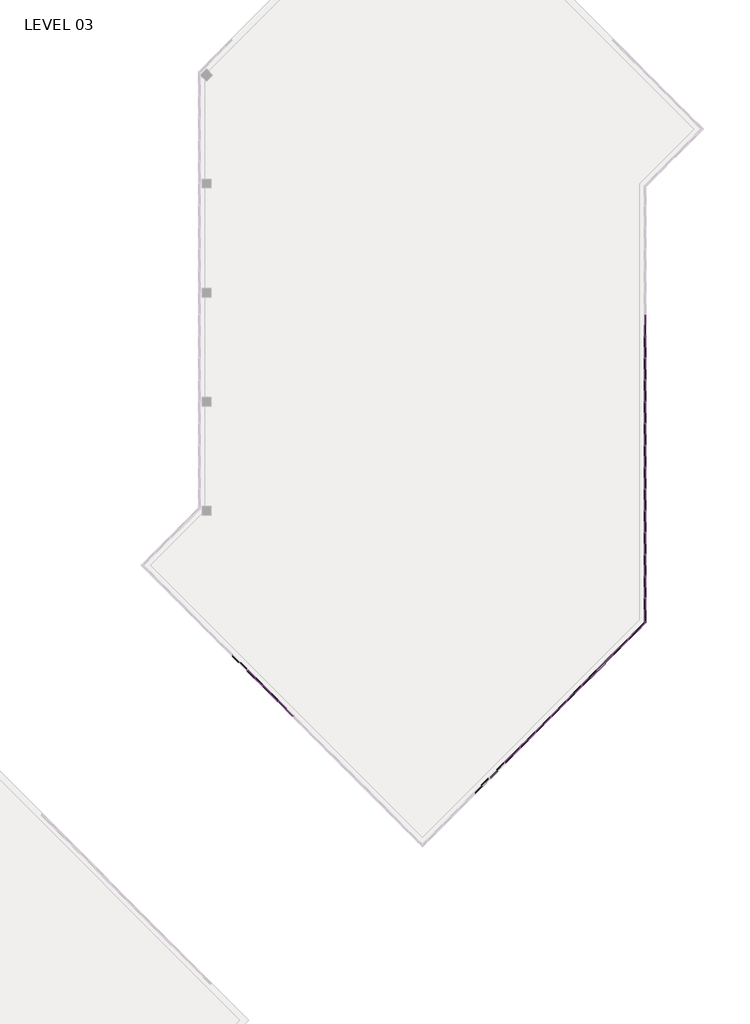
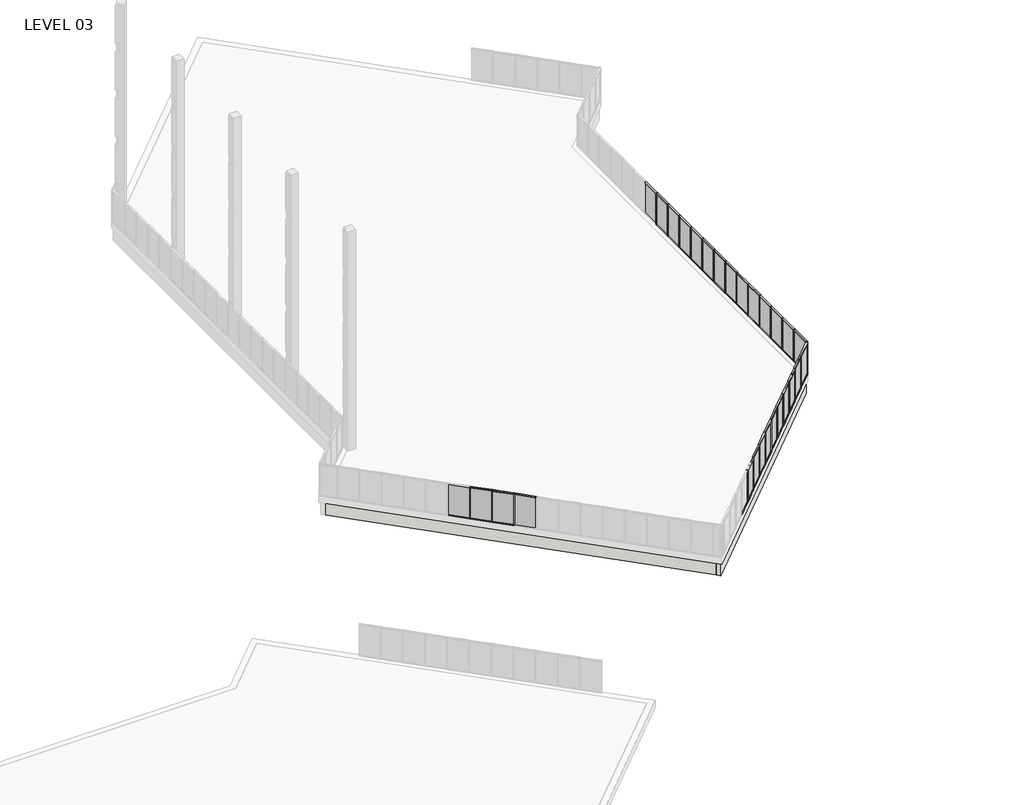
# One storey, part 11 of 18: 81 members, 28 plates, 3 walls.
"""IFC4 building model written with IfcOpenShell, lengths in millimetres."""

from ifc_helpers import new_model, si_unit, origin, place, context, project, spatial, faceted_brep, transform, mapped, element, save
from components import member_5247f267, member_e44af9ab, member_800970d4, member_1bd862b2, member_c975838b, member_910c08c9, plate_67294edd, plate_bbcbcabf, plate_3fb62afd, plate_88df3e37

model = new_model("IFC4")

# Units and contexts
model_context = context("Model", 3, world=origin())
ifc_project = project(units=[si_unit("LENGTHUNIT", "METRE", prefix="MILLI")], contexts=[model_context])

# Site, building, storey
site = spatial("IfcSite", under=ifc_project)
building = spatial("IfcBuilding", under=site)
storey = spatial("IfcBuildingStorey", under=building, Name="LEVEL 03", Elevation=8280.4)

# Members
placement = place(None, origin())
member_shape = member_5247f267(model_context)
element("IfcMember", 1, ObjectType="Rectangular Mullion : 2\" x 4.5\" rectangular", at=placement, inside=storey, context=model_context, shape_type="MappedRepresentation", body=[
    mapped(member_shape, transform((92435.9347164, 58305.3675885, 10871.2), x_axis=(0.0, 0.0, 1.0), y_axis=(-1.0, 0.0, 0.0), z_axis=(0.0, -1.0, 0.0))),
])
element("IfcMember", 2, ObjectType="Rectangular Mullion : 2\" x 4.5\" rectangular", at=placement, inside=storey, context=model_context, shape_type="MappedRepresentation", body=[
    mapped(member_shape, transform((92435.9347164, 56781.3675885, 10871.2), x_axis=(0.0, 0.0, 1.0), y_axis=(-1.0, 0.0, 0.0), z_axis=(0.0, -1.0, 0.0))),
])
element("IfcMember", 3, ObjectType="Rectangular Mullion : 2\" x 4.5\" rectangular", at=placement, inside=storey, context=model_context, shape_type="MappedRepresentation", body=[
    mapped(member_shape, transform((92435.9347164, 55257.3675885, 10871.2), x_axis=(0.0, 0.0, 1.0), y_axis=(-1.0, 0.0, 0.0), z_axis=(0.0, -1.0, 0.0))),
])
element("IfcMember", 4, ObjectType="Rectangular Mullion : 2\" x 4.5\" rectangular", at=placement, inside=storey, context=model_context, shape_type="MappedRepresentation", body=[
    mapped(member_shape, transform((92435.9347164, 52209.3675885, 10871.2), x_axis=(0.0, 0.0, 1.0), y_axis=(-1.0, 0.0, 0.0), z_axis=(0.0, -1.0, 0.0))),
])
element("IfcMember", 5, ObjectType="Rectangular Mullion : 2\" x 4.5\" rectangular", at=placement, inside=storey, context=model_context, shape_type="MappedRepresentation", body=[
    mapped(member_shape, transform((92435.9347164, 50685.3675885, 10871.2), x_axis=(0.0, 0.0, 1.0), y_axis=(-1.0, 0.0, 0.0), z_axis=(0.0, -1.0, 0.0))),
])
element("IfcMember", 6, ObjectType="Rectangular Mullion : 2\" x 4.5\" rectangular", at=placement, inside=storey, context=model_context, shape_type="MappedRepresentation", body=[
    mapped(member_shape, transform((92435.9347164, 47637.3675885, 10871.2), x_axis=(0.0, 0.0, 1.0), y_axis=(-1.0, 0.0, 0.0), z_axis=(0.0, -1.0, 0.0))),
])
element("IfcMember", 7, ObjectType="Rectangular Mullion : 2\" x 4.5\" rectangular", at=placement, inside=storey, context=model_context, shape_type="MappedRepresentation", body=[
    mapped(member_shape, transform((92435.9347164, 43065.3675885, 10871.2), x_axis=(0.0, 0.0, 1.0), y_axis=(-1.0, 0.0, 0.0), z_axis=(0.0, -1.0, 0.0))),
])
element("IfcMember", 8, ObjectType="Rectangular Mullion : 2\" x 4.5\" rectangular", at=placement, inside=storey, context=model_context, shape_type="MappedRepresentation", body=[
    mapped(member_shape, transform((92435.9347164, 41541.3675885, 10871.2), x_axis=(0.0, 0.0, 1.0), y_axis=(-1.0, 0.0, 0.0), z_axis=(0.0, -1.0, 0.0))),
])
element("IfcMember", 9, ObjectType="Rectangular Mullion : 2\" x 4.5\" rectangular", at=placement, inside=storey, context=model_context, shape_type="MappedRepresentation", body=[
    mapped(member_shape, transform((90181.6405, 36047.9672365, 10871.2), x_axis=(0.0, 0.0, 1.0), y_axis=(-0.7071067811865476, 0.7071067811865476, 0.0), z_axis=(-0.7071067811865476, -0.7071067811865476, 0.0))),
])
element("IfcMember", 10, ObjectType="Rectangular Mullion : 2\" x 4.5\" rectangular", at=placement, inside=storey, context=model_context, shape_type="MappedRepresentation", body=[
    mapped(member_shape, transform((89104.0097655, 34970.336502, 10871.2), x_axis=(0.0, 0.0, 1.0), y_axis=(-0.7071067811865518, 0.7071067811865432, 0.0), z_axis=(-0.7071067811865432, -0.7071067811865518, 0.0))),
])
element("IfcMember", 11, ObjectType="Rectangular Mullion : 2\" x 4.5\" rectangular", at=placement, inside=storey, context=model_context, shape_type="MappedRepresentation", body=[
    mapped(member_shape, transform((88026.379031, 33892.7057675, 10871.2), x_axis=(0.0, 0.0, 1.0), y_axis=(-0.707106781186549, 0.7071067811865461, 0.0), z_axis=(-0.7071067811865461, -0.707106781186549, 0.0))),
])
element("IfcMember", 12, ObjectType="Rectangular Mullion : 2\" x 4.5\" rectangular", at=placement, inside=storey, context=model_context, shape_type="MappedRepresentation", body=[
    mapped(member_shape, transform((85871.1175619, 31737.4442984, 10871.2), x_axis=(0.0, 0.0, 1.0), y_axis=(-0.7071067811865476, 0.7071067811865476, 0.0), z_axis=(-0.7071067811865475, -0.7071067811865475, 0.0))),
])
element("IfcMember", 13, ObjectType="Rectangular Mullion : 2\" x 4.5\" rectangular", at=placement, inside=storey, context=model_context, shape_type="MappedRepresentation", body=[
    mapped(member_shape, transform((84793.4868274, 30659.8135639, 10871.2), x_axis=(0.0, 0.0, 1.0), y_axis=(-0.7071067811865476, 0.7071067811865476, 0.0), z_axis=(-0.7071067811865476, -0.7071067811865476, 0.0))),
])
element("IfcMember", 14, ObjectType="Rectangular Mullion : 2\" x 4.5\" rectangular", at=placement, inside=storey, context=model_context, shape_type="MappedRepresentation", body=[
    mapped(member_shape, transform((83715.8560929, 29582.1828294, 10871.2), x_axis=(0.0, 0.0, 1.0), y_axis=(-0.7071067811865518, 0.7071067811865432, 0.0), z_axis=(-0.7071067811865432, -0.7071067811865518, 0.0))),
])
element("IfcMember", 15, ObjectType="Rectangular Mullion : 2\" x 4.5\" rectangular", at=placement, inside=storey, context=model_context, shape_type="MappedRepresentation", body=[
    mapped(member_shape, transform((64631.8093644, 34934.2368049, 10871.2), x_axis=(0.0, 0.0, 1.0), y_axis=(0.7071067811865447, 0.7071067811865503, 0.0), z_axis=(-0.7071067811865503, 0.7071067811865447, 0.0))),
])
element("IfcMember", 16, ObjectType="Rectangular Mullion : 2\" x 4.5\" rectangular", at=placement, inside=storey, context=model_context, shape_type="MappedRepresentation", body=[
    mapped(member_shape, transform((92435.9347164, 49161.3675885, 10871.2), x_axis=(0.0, 0.0, 1.0), y_axis=(-1.0, 0.0, 0.0), z_axis=(0.0, -1.0, 0.0))),
])
element("IfcMember", 17, ObjectType="Rectangular Mullion : 2\" x 4.5\" rectangular", at=placement, inside=storey, context=model_context, shape_type="MappedRepresentation", body=[
    mapped(member_shape, transform((92435.9347164, 53733.3675885, 10871.2), x_axis=(0.0, 0.0, 1.0), y_axis=(-1.0, 0.0, 0.0), z_axis=(0.0, -1.0, 0.0))),
])
element("IfcMember", 18, ObjectType="Rectangular Mullion : 2\" x 4.5\" rectangular", at=placement, inside=storey, context=model_context, shape_type="MappedRepresentation", body=[
    mapped(member_shape, transform((92435.9347164, 46113.3675885, 10871.2), x_axis=(0.0, 0.0, 1.0), y_axis=(-1.0, 0.0, 0.0), z_axis=(0.0, -1.0, 0.0))),
])
element("IfcMember", 19, ObjectType="Rectangular Mullion : 2\" x 4.5\" rectangular", at=placement, inside=storey, context=model_context, shape_type="MappedRepresentation", body=[
    mapped(member_shape, transform((92435.9347164, 44589.3675885, 10871.2), x_axis=(0.0, 0.0, 1.0), y_axis=(-1.0, 0.0, 0.0), z_axis=(0.0, -1.0, 0.0))),
])
element("IfcMember", 20, ObjectType="Rectangular Mullion : 2\" x 4.5\" rectangular", at=placement, inside=storey, context=model_context, shape_type="MappedRepresentation", body=[
    mapped(member_shape, transform((92435.9347164, 40017.3675885, 10871.2), x_axis=(0.0, 0.0, 1.0), y_axis=(-1.0, 0.0, 0.0), z_axis=(0.0, -1.0, 0.0))),
])
element("IfcMember", 21, ObjectType="Rectangular Mullion : 2\" x 4.5\" rectangular", at=placement, inside=storey, context=model_context, shape_type="MappedRepresentation", body=[
    mapped(member_shape, transform((86948.7482965, 32815.0750329, 10871.2), x_axis=(0.0, 0.0, 1.0), y_axis=(-0.7071067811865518, 0.7071067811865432, 0.0), z_axis=(-0.7071067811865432, -0.7071067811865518, 0.0))),
])
element("IfcMember", 22, ObjectType="Rectangular Mullion : 2\" x 4.5\" rectangular", at=placement, inside=storey, context=model_context, shape_type="MappedRepresentation", body=[
    mapped(member_shape, transform((82638.2253583, 28504.5520948, 10871.2), x_axis=(0.0, 0.0, 1.0), y_axis=(-0.7071067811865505, 0.7071067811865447, 0.0), z_axis=(-0.7071067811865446, -0.7071067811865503, 0.0))),
])
element("IfcMember", 23, ObjectType="Rectangular Mullion : 2\" x 4.5\" rectangular", at=placement, inside=storey, context=model_context, shape_type="MappedRepresentation", body=[
    mapped(member_shape, transform((92435.9347164, 58254.5675885, 8280.4), x_axis=(0.0, 0.0, -1.0), y_axis=(-1.0, 0.0, 0.0), z_axis=(0.0, 1.0, 0.0))),
])
element("IfcMember", 24, ObjectType="Rectangular Mullion : 2\" x 4.5\" rectangular", at=placement, inside=storey, context=model_context, shape_type="MappedRepresentation", body=[
    mapped(member_shape, transform((92435.9347164, 56730.5675885, 8280.4), x_axis=(0.0, 0.0, -1.0), y_axis=(-1.0, 0.0, 0.0), z_axis=(0.0, 1.0, 0.0))),
])
element("IfcMember", 25, ObjectType="Rectangular Mullion : 2\" x 4.5\" rectangular", at=placement, inside=storey, context=model_context, shape_type="MappedRepresentation", body=[
    mapped(member_shape, transform((92435.9347164, 55206.5675885, 8280.4), x_axis=(0.0, 0.0, -1.0), y_axis=(-1.0, 0.0, 0.0), z_axis=(0.0, 1.0, 0.0))),
])
element("IfcMember", 26, ObjectType="Rectangular Mullion : 2\" x 4.5\" rectangular", at=placement, inside=storey, context=model_context, shape_type="MappedRepresentation", body=[
    mapped(member_shape, transform((92435.9347164, 52158.5675885, 8280.4), x_axis=(0.0, 0.0, -1.0), y_axis=(-1.0, 0.0, 0.0), z_axis=(0.0, 1.0, 0.0))),
])
element("IfcMember", 27, ObjectType="Rectangular Mullion : 2\" x 4.5\" rectangular", at=placement, inside=storey, context=model_context, shape_type="MappedRepresentation", body=[
    mapped(member_shape, transform((92435.9347164, 50634.5675885, 8280.4), x_axis=(0.0, 0.0, -1.0), y_axis=(-1.0, 0.0, 0.0), z_axis=(0.0, 1.0, 0.0))),
])
element("IfcMember", 28, ObjectType="Rectangular Mullion : 2\" x 4.5\" rectangular", at=placement, inside=storey, context=model_context, shape_type="MappedRepresentation", body=[
    mapped(member_shape, transform((92435.9347164, 47586.5675885, 8280.4), x_axis=(0.0, 0.0, -1.0), y_axis=(-1.0, 0.0, 0.0), z_axis=(0.0, 1.0, 0.0))),
])
element("IfcMember", 29, ObjectType="Rectangular Mullion : 2\" x 4.5\" rectangular", at=placement, inside=storey, context=model_context, shape_type="MappedRepresentation", body=[
    mapped(member_shape, transform((92435.9347164, 43014.5675885, 8280.4), x_axis=(0.0, 0.0, -1.0), y_axis=(-1.0, 0.0, 0.0), z_axis=(0.0, 1.0, 0.0))),
])
element("IfcMember", 30, ObjectType="Rectangular Mullion : 2\" x 4.5\" rectangular", at=placement, inside=storey, context=model_context, shape_type="MappedRepresentation", body=[
    mapped(member_shape, transform((92435.9347164, 41490.5675885, 8280.4), x_axis=(0.0, 0.0, -1.0), y_axis=(-1.0, 0.0, 0.0), z_axis=(0.0, 1.0, 0.0))),
])
element("IfcMember", 31, ObjectType="Rectangular Mullion : 2\" x 4.5\" rectangular", at=placement, inside=storey, context=model_context, shape_type="MappedRepresentation", body=[
    mapped(member_shape, transform((91223.3502101, 37089.6769466, 8280.4), x_axis=(0.0, 0.0, -1.0), y_axis=(-0.7071067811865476, 0.7071067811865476, 0.0), z_axis=(0.7071067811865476, 0.7071067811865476, 0.0))),
])
element("IfcMember", 32, ObjectType="Rectangular Mullion : 2\" x 4.5\" rectangular", at=placement, inside=storey, context=model_context, shape_type="MappedRepresentation", body=[
    mapped(member_shape, transform((90145.7194756, 36012.046212, 8280.4), x_axis=(0.0, 0.0, -1.0), y_axis=(-0.7071067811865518, 0.7071067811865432, 0.0), z_axis=(0.7071067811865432, 0.7071067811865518, 0.0))),
])
element("IfcMember", 33, ObjectType="Rectangular Mullion : 2\" x 4.5\" rectangular", at=placement, inside=storey, context=model_context, shape_type="MappedRepresentation", body=[
    mapped(member_shape, transform((89068.088741, 34934.4154775, 8280.4), x_axis=(0.0, 0.0, -1.0), y_axis=(-0.707106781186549, 0.7071067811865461, 0.0), z_axis=(0.7071067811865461, 0.707106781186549, 0.0))),
])
element("IfcMember", 34, ObjectType="Rectangular Mullion : 2\" x 4.5\" rectangular", at=placement, inside=storey, context=model_context, shape_type="MappedRepresentation", body=[
    mapped(member_shape, transform((87990.4580065, 33856.784743, 8280.4), x_axis=(0.0, 0.0, -1.0), y_axis=(-0.7071067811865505, 0.7071067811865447, 0.0), z_axis=(0.7071067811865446, 0.7071067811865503, 0.0))),
])
element("IfcMember", 35, ObjectType="Rectangular Mullion : 2\" x 4.5\" rectangular", at=placement, inside=storey, context=model_context, shape_type="MappedRepresentation", body=[
    mapped(member_shape, transform((85835.1965374, 31701.5232739, 8280.4), x_axis=(0.0, 0.0, -1.0), y_axis=(-0.7071067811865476, 0.7071067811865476, 0.0), z_axis=(0.7071067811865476, 0.7071067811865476, 0.0))),
])
element("IfcMember", 36, ObjectType="Rectangular Mullion : 2\" x 4.5\" rectangular", at=placement, inside=storey, context=model_context, shape_type="MappedRepresentation", body=[
    mapped(member_shape, transform((84757.5658029, 30623.8925394, 8280.4), x_axis=(0.0, 0.0, -1.0), y_axis=(-0.7071067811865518, 0.7071067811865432, 0.0), z_axis=(0.7071067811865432, 0.7071067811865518, 0.0))),
])
element("IfcMember", 37, ObjectType="Rectangular Mullion : 2\" x 4.5\" rectangular", at=placement, inside=storey, context=model_context, shape_type="MappedRepresentation", body=[
    mapped(member_shape, transform((83679.9350684, 29546.2618049, 8280.4), x_axis=(0.0, 0.0, -1.0), y_axis=(-0.7071067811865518, 0.7071067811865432, 0.0), z_axis=(0.7071067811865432, 0.7071067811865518, 0.0))),
])
element("IfcMember", 38, ObjectType="Rectangular Mullion : 2\" x 4.5\" rectangular", at=placement, inside=storey, context=model_context, shape_type="MappedRepresentation", body=[
    mapped(member_shape, transform((65673.5190745, 33892.5270948, 8280.4), x_axis=(0.0, 0.0, -1.0), y_axis=(0.7071067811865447, 0.7071067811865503, 0.0), z_axis=(0.7071067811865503, -0.7071067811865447, 0.0))),
])
element("IfcMember", 39, ObjectType="Rectangular Mullion : 2\" x 4.5\" rectangular", at=placement, inside=storey, context=model_context, shape_type="MappedRepresentation", body=[
    mapped(member_shape, transform((64595.8883399, 34970.1578294, 8280.4), x_axis=(0.0, 0.0, -1.0), y_axis=(0.7071067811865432, 0.7071067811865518, 0.0), z_axis=(0.7071067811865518, -0.7071067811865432, 0.0))),
])
element("IfcMember", 40, ObjectType="Rectangular Mullion : 2\" x 4.5\" rectangular", at=placement, inside=storey, context=model_context, shape_type="MappedRepresentation", body=[
    mapped(member_shape, transform((92435.9347164, 49110.5675885, 8280.4), x_axis=(0.0, 0.0, -1.0), y_axis=(-1.0, 0.0, 0.0), z_axis=(0.0, 1.0, 0.0))),
])
element("IfcMember", 41, ObjectType="Rectangular Mullion : 2\" x 4.5\" rectangular", at=placement, inside=storey, context=model_context, shape_type="MappedRepresentation", body=[
    mapped(member_shape, transform((92435.9347164, 53682.5675885, 8280.4), x_axis=(0.0, 0.0, -1.0), y_axis=(-1.0, 0.0, 0.0), z_axis=(0.0, 1.0, 0.0))),
])
element("IfcMember", 42, ObjectType="Rectangular Mullion : 2\" x 4.5\" rectangular", at=placement, inside=storey, context=model_context, shape_type="MappedRepresentation", body=[
    mapped(member_shape, transform((92435.9347164, 46062.5675885, 8280.4), x_axis=(0.0, 0.0, -1.0), y_axis=(-1.0, 0.0, 0.0), z_axis=(0.0, 1.0, 0.0))),
])
element("IfcMember", 43, ObjectType="Rectangular Mullion : 2\" x 4.5\" rectangular", at=placement, inside=storey, context=model_context, shape_type="MappedRepresentation", body=[
    mapped(member_shape, transform((92435.9347164, 44538.5675885, 8280.4), x_axis=(0.0, 0.0, -1.0), y_axis=(-1.0, 0.0, 0.0), z_axis=(0.0, 1.0, 0.0))),
])
element("IfcMember", 44, ObjectType="Rectangular Mullion : 2\" x 4.5\" rectangular", at=placement, inside=storey, context=model_context, shape_type="MappedRepresentation", body=[
    mapped(member_shape, transform((86912.827272, 32779.1540085, 8280.4), x_axis=(0.0, 0.0, -1.0), y_axis=(-0.7071067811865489, 0.7071067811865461, 0.0), z_axis=(0.7071067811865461, 0.7071067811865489, 0.0))),
])
element("IfcMember", 45, ObjectType="Rectangular Mullion : 2\" x 4.5\" rectangular", at=placement, inside=storey, context=model_context, shape_type="MappedRepresentation", body=[
    mapped(member_shape, transform((81524.6735993, 27391.0003358, 8280.4), x_axis=(0.0, 0.0, -1.0), y_axis=(-0.707106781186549, 0.7071067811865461, 0.0), z_axis=(0.7071067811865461, 0.707106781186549, 0.0))),
])
element("IfcMember", 46, ObjectType="Rectangular Mullion : 2\" x 4.5\" rectangular", at=placement, inside=storey, context=model_context, shape_type="MappedRepresentation", body=[
    mapped(member_shape, transform((82602.3043339, 28468.6310704, 8280.4), x_axis=(0.0, 0.0, -1.0), y_axis=(-0.7071067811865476, 0.7071067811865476, 0.0), z_axis=(0.7071067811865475, 0.7071067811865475, 0.0))),
])
member_2_shape = member_e44af9ab(model_context)
element("IfcMember", 47, ObjectType="Rectangular Mullion : 2\" x 4.5\" rectangular", at=placement, inside=storey, context=model_context, shape_type="MappedRepresentation", body=[
    mapped(member_2_shape, transform((92435.9347164, 58279.9675885, 8280.4), x_axis=(0.0, -1.0, 0.0), y_axis=(-1.0, 0.0, 0.0), z_axis=(0.0, 0.0, -1.0))),
])
element("IfcMember", 48, ObjectType="Rectangular Mullion : 2\" x 4.5\" rectangular", at=placement, inside=storey, context=model_context, shape_type="MappedRepresentation", body=[
    mapped(member_2_shape, transform((92435.9347164, 56755.9675885, 8280.4), x_axis=(0.0, -1.0, 0.0), y_axis=(-1.0, 0.0, 0.0), z_axis=(0.0, 0.0, -1.0))),
])
element("IfcMember", 49, ObjectType="Rectangular Mullion : 2\" x 4.5\" rectangular", at=placement, inside=storey, context=model_context, shape_type="MappedRepresentation", body=[
    mapped(member_2_shape, transform((92435.9347164, 55231.9675885, 8280.4), x_axis=(0.0, -1.0, 0.0), y_axis=(-1.0, 0.0, 0.0), z_axis=(0.0, 0.0, -1.0))),
])
element("IfcMember", 50, ObjectType="Rectangular Mullion : 2\" x 4.5\" rectangular", at=placement, inside=storey, context=model_context, shape_type="MappedRepresentation", body=[
    mapped(member_2_shape, transform((92435.9347164, 52183.9675885, 8280.4), x_axis=(0.0, -1.0, 0.0), y_axis=(-1.0, 0.0, 0.0), z_axis=(0.0, 0.0, -1.0))),
])
element("IfcMember", 51, ObjectType="Rectangular Mullion : 2\" x 4.5\" rectangular", at=placement, inside=storey, context=model_context, shape_type="MappedRepresentation", body=[
    mapped(member_2_shape, transform((92435.9347164, 50659.9675885, 8280.4), x_axis=(0.0, -1.0, 0.0), y_axis=(-1.0, 0.0, 0.0), z_axis=(0.0, 0.0, -1.0))),
])
element("IfcMember", 52, ObjectType="Rectangular Mullion : 2\" x 4.5\" rectangular", at=placement, inside=storey, context=model_context, shape_type="MappedRepresentation", body=[
    mapped(member_2_shape, transform((92435.9347164, 47611.9675885, 8280.4), x_axis=(0.0, -1.0, 0.0), y_axis=(-1.0, 0.0, 0.0), z_axis=(0.0, 0.0, -1.0))),
])
element("IfcMember", 53, ObjectType="Rectangular Mullion : 2\" x 4.5\" rectangular", at=placement, inside=storey, context=model_context, shape_type="MappedRepresentation", body=[
    mapped(member_2_shape, transform((92435.9347164, 43039.9675885, 8280.4), x_axis=(0.0, -1.0, 0.0), y_axis=(-1.0, 0.0, 0.0), z_axis=(0.0, 0.0, -1.0))),
])
element("IfcMember", 54, ObjectType="Rectangular Mullion : 2\" x 4.5\" rectangular", at=placement, inside=storey, context=model_context, shape_type="MappedRepresentation", body=[
    mapped(member_2_shape, transform((92435.9347164, 41515.9675885, 8280.4), x_axis=(0.0, -1.0, 0.0), y_axis=(-1.0, 0.0, 0.0), z_axis=(0.0, 0.0, -1.0))),
])
element("IfcMember", 55, ObjectType="Rectangular Mullion : 2\" x 4.5\" rectangular", at=placement, inside=storey, context=model_context, shape_type="MappedRepresentation", body=[
    mapped(member_2_shape, transform((91241.3107223, 37107.6374588, 8280.4), x_axis=(-0.7071067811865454, -0.7071067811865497, 0.0), y_axis=(-0.7071067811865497, 0.7071067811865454, 0.0), z_axis=(0.0, 0.0, -1.0))),
])
element("IfcMember", 56, ObjectType="Rectangular Mullion : 2\" x 4.5\" rectangular", at=placement, inside=storey, context=model_context, shape_type="MappedRepresentation", body=[
    mapped(member_2_shape, transform((90163.6799878, 36030.0067243, 8280.4), x_axis=(-0.7071067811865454, -0.7071067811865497, 0.0), y_axis=(-0.7071067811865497, 0.7071067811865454, 0.0), z_axis=(0.0, 0.0, -1.0))),
])
element("IfcMember", 57, ObjectType="Rectangular Mullion : 2\" x 4.5\" rectangular", at=placement, inside=storey, context=model_context, shape_type="MappedRepresentation", body=[
    mapped(member_2_shape, transform((89086.0492533, 34952.3759898, 8280.4), x_axis=(-0.7071067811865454, -0.7071067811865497, 0.0), y_axis=(-0.7071067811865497, 0.7071067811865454, 0.0), z_axis=(0.0, 0.0, -1.0))),
])
element("IfcMember", 58, ObjectType="Rectangular Mullion : 2\" x 4.5\" rectangular", at=placement, inside=storey, context=model_context, shape_type="MappedRepresentation", body=[
    mapped(member_2_shape, transform((88008.4185187, 33874.7452552, 8280.4), x_axis=(-0.7071067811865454, -0.7071067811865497, 0.0), y_axis=(-0.7071067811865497, 0.7071067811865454, 0.0), z_axis=(0.0, 0.0, -1.0))),
])
element("IfcMember", 59, ObjectType="Rectangular Mullion : 2\" x 4.5\" rectangular", at=placement, inside=storey, context=model_context, shape_type="MappedRepresentation", body=[
    mapped(member_2_shape, transform((85853.1570497, 31719.4837862, 8280.4), x_axis=(-0.7071067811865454, -0.7071067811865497, 0.0), y_axis=(-0.7071067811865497, 0.7071067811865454, 0.0), z_axis=(0.0, 0.0, -1.0))),
])
element("IfcMember", 60, ObjectType="Rectangular Mullion : 2\" x 4.5\" rectangular", at=placement, inside=storey, context=model_context, shape_type="MappedRepresentation", body=[
    mapped(member_2_shape, transform((84775.5263152, 30641.8530517, 8280.4), x_axis=(-0.7071067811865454, -0.7071067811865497, 0.0), y_axis=(-0.7071067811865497, 0.7071067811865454, 0.0), z_axis=(0.0, 0.0, -1.0))),
])
element("IfcMember", 61, ObjectType="Rectangular Mullion : 2\" x 4.5\" rectangular", at=placement, inside=storey, context=model_context, shape_type="MappedRepresentation", body=[
    mapped(member_2_shape, transform((83697.8955806, 29564.2223171, 8280.4), x_axis=(-0.7071067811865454, -0.7071067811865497, 0.0), y_axis=(-0.7071067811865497, 0.7071067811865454, 0.0), z_axis=(0.0, 0.0, -1.0))),
])
element("IfcMember", 62, ObjectType="Rectangular Mullion : 2\" x 4.5\" rectangular", at=placement, inside=storey, context=model_context, shape_type="MappedRepresentation", body=[
    mapped(member_2_shape, transform((65691.4795867, 33874.5665826, 8280.4), x_axis=(-0.7071067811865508, 0.7071067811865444, 0.0), y_axis=(0.7071067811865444, 0.7071067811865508, 0.0), z_axis=(0.0, 0.0, -1.0))),
])
element("IfcMember", 63, ObjectType="Rectangular Mullion : 2\" x 4.5\" rectangular", at=placement, inside=storey, context=model_context, shape_type="MappedRepresentation", body=[
    mapped(member_2_shape, transform((64613.8488522, 34952.1973171, 8280.4), x_axis=(-0.7071067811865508, 0.7071067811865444, 0.0), y_axis=(0.7071067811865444, 0.7071067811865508, 0.0), z_axis=(0.0, 0.0, -1.0))),
])
element("IfcMember", 64, ObjectType="Rectangular Mullion : 2\" x 4.5\" rectangular", at=placement, inside=storey, context=model_context, shape_type="MappedRepresentation", body=[
    mapped(member_2_shape, transform((92435.9347164, 49135.9675885, 8280.4), x_axis=(0.0, -1.0, 0.0), y_axis=(-1.0, 0.0, 0.0), z_axis=(0.0, 0.0, -1.0))),
])
element("IfcMember", 65, ObjectType="Rectangular Mullion : 2\" x 4.5\" rectangular", at=placement, inside=storey, context=model_context, shape_type="MappedRepresentation", body=[
    mapped(member_2_shape, transform((92435.9347164, 53707.9675885, 8280.4), x_axis=(0.0, -1.0, 0.0), y_axis=(-1.0, 0.0, 0.0), z_axis=(0.0, 0.0, -1.0))),
])
element("IfcMember", 66, ObjectType="Rectangular Mullion : 2\" x 4.5\" rectangular", at=placement, inside=storey, context=model_context, shape_type="MappedRepresentation", body=[
    mapped(member_2_shape, transform((92435.9347164, 46087.9675885, 8280.4), x_axis=(0.0, -1.0, 0.0), y_axis=(-1.0, 0.0, 0.0), z_axis=(0.0, 0.0, -1.0))),
])
element("IfcMember", 67, ObjectType="Rectangular Mullion : 2\" x 4.5\" rectangular", at=placement, inside=storey, context=model_context, shape_type="MappedRepresentation", body=[
    mapped(member_2_shape, transform((92435.9347164, 44563.9675885, 8280.4), x_axis=(0.0, -1.0, 0.0), y_axis=(-1.0, 0.0, 0.0), z_axis=(0.0, 0.0, -1.0))),
])
element("IfcMember", 68, ObjectType="Rectangular Mullion : 2\" x 4.5\" rectangular", at=placement, inside=storey, context=model_context, shape_type="MappedRepresentation", body=[
    mapped(member_2_shape, transform((92435.9347164, 39991.9675885, 8280.4), x_axis=(0.0, -1.0, 0.0), y_axis=(-1.0, 0.0, 0.0), z_axis=(0.0, 0.0, -1.0))),
])
element("IfcMember", 69, ObjectType="Rectangular Mullion : 2\" x 4.5\" rectangular", at=placement, inside=storey, context=model_context, shape_type="MappedRepresentation", body=[
    mapped(member_2_shape, transform((86930.7877842, 32797.1145207, 8280.4), x_axis=(-0.7071067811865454, -0.7071067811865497, 0.0), y_axis=(-0.7071067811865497, 0.7071067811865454, 0.0), z_axis=(0.0, 0.0, -1.0))),
])
element("IfcMember", 70, ObjectType="Rectangular Mullion : 2\" x 4.5\" rectangular", at=placement, inside=storey, context=model_context, shape_type="MappedRepresentation", body=[
    mapped(member_2_shape, transform((81542.6341116, 27408.9608481, 8280.4), x_axis=(-0.7071067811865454, -0.7071067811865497, 0.0), y_axis=(-0.7071067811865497, 0.7071067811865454, 0.0), z_axis=(0.0, 0.0, -1.0))),
])
element("IfcMember", 71, ObjectType="Rectangular Mullion : 2\" x 4.5\" rectangular", at=placement, inside=storey, context=model_context, shape_type="MappedRepresentation", body=[
    mapped(member_2_shape, transform((82620.2648461, 28486.5915826, 8280.4), x_axis=(-0.7071067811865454, -0.7071067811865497, 0.0), y_axis=(-0.7071067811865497, 0.7071067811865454, 0.0), z_axis=(0.0, 0.0, -1.0))),
])
element("IfcMember", 72, ObjectType="Rectangular Mullion : 2\" x 4.5\" rectangular", at=placement, inside=storey, context=model_context, shape_type="MappedRepresentation", body=[
    mapped(member_2_shape, transform((66768.9316486, 32797.1145207, 8280.4), x_axis=(-0.7071067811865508, 0.7071067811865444, 0.0), y_axis=(0.7071067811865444, 0.7071067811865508, 0.0), z_axis=(0.0, 0.0, -1.0))),
])
member_3_shape = member_800970d4(model_context)
element("IfcMember", 73, ObjectType="Rectangular Mullion : 2\" x 4.5\" rectangular", at=placement, inside=storey, context=model_context, shape_type="MappedRepresentation", body=[
    mapped(member_3_shape, transform((92435.9347164, 38302.2614529, 8280.4), x_axis=(0.0, -1.0, 0.0), y_axis=(-1.0, 0.0, 0.0), z_axis=(0.0, 0.0, -1.0))),
])
element("IfcMember", 74, ObjectType="Rectangular Mullion : 2\" x 4.5\" rectangular", at=placement, inside=storey, context=model_context, shape_type="MappedRepresentation", body=[
    mapped(member_3_shape, transform((92435.9347164, 38302.2614529, 10871.2), x_axis=(0.7071067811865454, 0.7071067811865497, 0.0), y_axis=(-0.7071067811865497, 0.7071067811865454, 0.0), z_axis=(0.0, 0.0, 1.0))),
])
member_4_shape = member_1bd862b2(model_context)
element("IfcMember", 75, ObjectType="Rectangular Mullion : 2\" x 4.5\" rectangular", at=placement, inside=storey, context=model_context, shape_type="MappedRepresentation", body=[
    mapped(member_4_shape, transform((92435.9347164, 39966.5675885, 8280.4), x_axis=(0.0, 0.0, -1.0), y_axis=(-1.0, 0.0, 0.0), z_axis=(0.0, 1.0, 0.0))),
])
element("IfcMember", 76, ObjectType="Rectangular Mullion : 2\" x 4.5\" rectangular", at=placement, inside=storey, context=model_context, shape_type="MappedRepresentation", body=[
    mapped(member_4_shape, transform((92435.9347164, 38353.0614529, 10871.2), x_axis=(0.0, 0.0, 1.0), y_axis=(-1.0, 0.0, 0.0), z_axis=(0.0, -1.0, 0.0))),
])
member_5_shape = member_c975838b(model_context)
element("IfcMember", 77, ObjectType="Rectangular Mullion : 2\" x 4.5\" rectangular", at=placement, inside=storey, context=model_context, shape_type="MappedRepresentation", body=[
    mapped(member_5_shape, transform((92400.0136919, 38266.3404284, 8280.4), x_axis=(0.0, 0.0, -1.0), y_axis=(-0.7071067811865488, 0.7071067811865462, 0.0), z_axis=(0.7071067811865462, 0.7071067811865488, 0.0))),
])
element("IfcMember", 78, ObjectType="Rectangular Mullion : 2\" x 4.5\" rectangular", at=placement, inside=storey, context=model_context, shape_type="MappedRepresentation", body=[
    mapped(member_5_shape, transform((91259.2712346, 37125.5979711, 10871.2), x_axis=(0.0, 0.0, 1.0), y_axis=(-0.7071067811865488, 0.7071067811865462, 0.0), z_axis=(-0.7071067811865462, -0.7071067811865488, 0.0))),
])
member_6_shape = member_910c08c9(model_context)
element("IfcMember", 79, ObjectType="Rectangular Mullion : 2\" x 4.5\" rectangular", at=placement, inside=storey, context=model_context, shape_type="MappedRepresentation", body=[
    mapped(member_6_shape, transform((65709.4400989, 33856.6060704, 10871.2), x_axis=(0.0, 0.0, 1.0), y_axis=(0.7071067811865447, 0.7071067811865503, 0.0), z_axis=(-0.7071067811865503, 0.7071067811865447, 0.0))),
])
element("IfcMember", 80, ObjectType="Rectangular Mullion : 2\" x 4.5\" rectangular", at=placement, inside=storey, context=model_context, shape_type="MappedRepresentation", body=[
    mapped(member_6_shape, transform((66786.8921608, 32779.1540085, 10871.2), x_axis=(0.0, 0.0, 1.0), y_axis=(0.7071067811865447, 0.7071067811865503, 0.0), z_axis=(-0.7071067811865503, 0.7071067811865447, 0.0))),
])
element("IfcMember", 81, ObjectType="Rectangular Mullion : 2\" x 4.5\" rectangular", at=placement, inside=storey, context=model_context, shape_type="MappedRepresentation", body=[
    mapped(member_6_shape, transform((66750.9711363, 32815.0750329, 8280.4), x_axis=(0.0, 0.0, -1.0), y_axis=(0.7071067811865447, 0.7071067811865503, 0.0), z_axis=(0.7071067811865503, -0.7071067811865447, 0.0))),
])

# Plates
plate_shape = plate_67294edd(model_context)
element("IfcPlate", 82, ObjectType="System Panel : 1/4\" Glass", at=placement, inside=storey, context=model_context, shape_type="MappedRepresentation", body=[
    mapped(plate_shape, transform((92435.9347164, 57517.9675885, 8331.2), x_axis=(0.0, -1.0, 0.0), y_axis=(1.0, 0.0, 0.0), z_axis=(0.0, 0.0, 1.0))),
])
element("IfcPlate", 83, ObjectType="System Panel : 1/4\" Glass", at=placement, inside=storey, context=model_context, shape_type="MappedRepresentation", body=[
    mapped(plate_shape, transform((92435.9347164, 55993.9675885, 8331.2), x_axis=(0.0, -1.0, 0.0), y_axis=(1.0, 0.0, 0.0), z_axis=(0.0, 0.0, 1.0))),
])
element("IfcPlate", 84, ObjectType="System Panel : 1/4\" Glass", at=placement, inside=storey, context=model_context, shape_type="MappedRepresentation", body=[
    mapped(plate_shape, transform((92435.9347164, 54469.9675885, 8331.2), x_axis=(0.0, -1.0, 0.0), y_axis=(1.0, 0.0, 0.0), z_axis=(0.0, 0.0, 1.0))),
])
element("IfcPlate", 85, ObjectType="System Panel : 1/4\" Glass", at=placement, inside=storey, context=model_context, shape_type="MappedRepresentation", body=[
    mapped(plate_shape, transform((92435.9347164, 51421.9675885, 8331.2), x_axis=(0.0, -1.0, 0.0), y_axis=(1.0, 0.0, 0.0), z_axis=(0.0, 0.0, 1.0))),
])
element("IfcPlate", 86, ObjectType="System Panel : 1/4\" Glass", at=placement, inside=storey, context=model_context, shape_type="MappedRepresentation", body=[
    mapped(plate_shape, transform((92435.9347164, 49897.9675885, 8331.2), x_axis=(0.0, -1.0, 0.0), y_axis=(1.0, 0.0, 0.0), z_axis=(0.0, 0.0, 1.0))),
])
element("IfcPlate", 87, ObjectType="System Panel : 1/4\" Glass", at=placement, inside=storey, context=model_context, shape_type="MappedRepresentation", body=[
    mapped(plate_shape, transform((92435.9347164, 46849.9675885, 8331.2), x_axis=(0.0, -1.0, 0.0), y_axis=(1.0, 0.0, 0.0), z_axis=(0.0, 0.0, 1.0))),
])
element("IfcPlate", 88, ObjectType="System Panel : 1/4\" Glass", at=placement, inside=storey, context=model_context, shape_type="MappedRepresentation", body=[
    mapped(plate_shape, transform((92435.9347164, 42277.9675885, 8331.2), x_axis=(0.0, -1.0, 0.0), y_axis=(1.0, 0.0, 0.0), z_axis=(0.0, 0.0, 1.0))),
])
element("IfcPlate", 89, ObjectType="System Panel : 1/4\" Glass", at=placement, inside=storey, context=model_context, shape_type="MappedRepresentation", body=[
    mapped(plate_shape, transform((92435.9347164, 40753.9675885, 8331.2), x_axis=(0.0, -1.0, 0.0), y_axis=(1.0, 0.0, 0.0), z_axis=(0.0, 0.0, 1.0))),
])
element("IfcPlate", 90, ObjectType="System Panel : 1/4\" Glass", at=placement, inside=storey, context=model_context, shape_type="MappedRepresentation", body=[
    mapped(plate_shape, transform((90702.4953551, 36568.8220916, 8331.2), x_axis=(-0.7071067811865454, -0.7071067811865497, 0.0), y_axis=(0.7071067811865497, -0.7071067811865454, 0.0), z_axis=(0.0, 0.0, 1.0))),
])
element("IfcPlate", 91, ObjectType="System Panel : 1/4\" Glass", at=placement, inside=storey, context=model_context, shape_type="MappedRepresentation", body=[
    mapped(plate_shape, transform((89624.8646205, 35491.191357, 8331.2), x_axis=(-0.7071067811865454, -0.7071067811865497, 0.0), y_axis=(0.7071067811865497, -0.7071067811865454, 0.0), z_axis=(0.0, 0.0, 1.0))),
])
element("IfcPlate", 92, ObjectType="System Panel : 1/4\" Glass", at=placement, inside=storey, context=model_context, shape_type="MappedRepresentation", body=[
    mapped(plate_shape, transform((88547.233886, 34413.5606225, 8331.2), x_axis=(-0.7071067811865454, -0.7071067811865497, 0.0), y_axis=(0.7071067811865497, -0.7071067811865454, 0.0), z_axis=(0.0, 0.0, 1.0))),
])
element("IfcPlate", 93, ObjectType="System Panel : 1/4\" Glass", at=placement, inside=storey, context=model_context, shape_type="MappedRepresentation", body=[
    mapped(plate_shape, transform((87469.6031515, 33335.929888, 8331.2), x_axis=(-0.7071067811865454, -0.7071067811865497, 0.0), y_axis=(0.7071067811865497, -0.7071067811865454, 0.0), z_axis=(0.0, 0.0, 1.0))),
])
element("IfcPlate", 94, ObjectType="System Panel : 1/4\" Glass", at=placement, inside=storey, context=model_context, shape_type="MappedRepresentation", body=[
    mapped(plate_shape, transform((85314.3416824, 31180.6684189, 8331.2), x_axis=(-0.7071067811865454, -0.7071067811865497, 0.0), y_axis=(0.7071067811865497, -0.7071067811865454, 0.0), z_axis=(0.0, 0.0, 1.0))),
])
element("IfcPlate", 95, ObjectType="System Panel : 1/4\" Glass", at=placement, inside=storey, context=model_context, shape_type="MappedRepresentation", body=[
    mapped(plate_shape, transform((84236.7109479, 30103.0376844, 8331.2), x_axis=(-0.7071067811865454, -0.7071067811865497, 0.0), y_axis=(0.7071067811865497, -0.7071067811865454, 0.0), z_axis=(0.0, 0.0, 1.0))),
])
element("IfcPlate", 96, ObjectType="System Panel : 1/4\" Glass", at=placement, inside=storey, context=model_context, shape_type="MappedRepresentation", body=[
    mapped(plate_shape, transform((83159.0802134, 29025.4069499, 8331.2), x_axis=(-0.7071067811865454, -0.7071067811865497, 0.0), y_axis=(0.7071067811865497, -0.7071067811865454, 0.0), z_axis=(0.0, 0.0, 1.0))),
])
element("IfcPlate", 97, ObjectType="System Panel : 1/4\" Glass", at=placement, inside=storey, context=model_context, shape_type="MappedRepresentation", body=[
    mapped(plate_shape, transform((65152.6642194, 34413.3819499, 8331.2), x_axis=(-0.7071067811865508, 0.7071067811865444, 0.0), y_axis=(-0.7071067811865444, -0.7071067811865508, 0.0), z_axis=(0.0, 0.0, 1.0))),
])
element("IfcPlate", 98, ObjectType="System Panel : 1/4\" Glass", at=placement, inside=storey, context=model_context, shape_type="MappedRepresentation", body=[
    mapped(plate_shape, transform((64075.0334849, 35491.0126844, 8331.2), x_axis=(-0.7071067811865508, 0.7071067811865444, 0.0), y_axis=(-0.7071067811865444, -0.7071067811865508, 0.0), z_axis=(0.0, 0.0, 1.0))),
])
element("IfcPlate", 99, ObjectType="System Panel : 1/4\" Glass", at=placement, inside=storey, context=model_context, shape_type="MappedRepresentation", body=[
    mapped(plate_shape, transform((92435.9347164, 59041.9675885, 8331.2), x_axis=(0.0, -1.0, 0.0), y_axis=(1.0, 0.0, 0.0), z_axis=(0.0, 0.0, 1.0))),
])
element("IfcPlate", 100, ObjectType="System Panel : 1/4\" Glass", at=placement, inside=storey, context=model_context, shape_type="MappedRepresentation", body=[
    mapped(plate_shape, transform((92435.9347164, 48373.9675885, 8331.2), x_axis=(0.0, -1.0, 0.0), y_axis=(1.0, 0.0, 0.0), z_axis=(0.0, 0.0, 1.0))),
])
element("IfcPlate", 101, ObjectType="System Panel : 1/4\" Glass", at=placement, inside=storey, context=model_context, shape_type="MappedRepresentation", body=[
    mapped(plate_shape, transform((92435.9347164, 52945.9675885, 8331.2), x_axis=(0.0, -1.0, 0.0), y_axis=(1.0, 0.0, 0.0), z_axis=(0.0, 0.0, 1.0))),
])
element("IfcPlate", 102, ObjectType="System Panel : 1/4\" Glass", at=placement, inside=storey, context=model_context, shape_type="MappedRepresentation", body=[
    mapped(plate_shape, transform((92435.9347164, 45325.9675885, 8331.2), x_axis=(0.0, -1.0, 0.0), y_axis=(1.0, 0.0, 0.0), z_axis=(0.0, 0.0, 1.0))),
])
element("IfcPlate", 103, ObjectType="System Panel : 1/4\" Glass", at=placement, inside=storey, context=model_context, shape_type="MappedRepresentation", body=[
    mapped(plate_shape, transform((92435.9347164, 43801.9675885, 8331.2), x_axis=(0.0, -1.0, 0.0), y_axis=(1.0, 0.0, 0.0), z_axis=(0.0, 0.0, 1.0))),
])
element("IfcPlate", 104, ObjectType="System Panel : 1/4\" Glass", at=placement, inside=storey, context=model_context, shape_type="MappedRepresentation", body=[
    mapped(plate_shape, transform((86391.972417, 32258.2991534, 8331.2), x_axis=(-0.7071067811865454, -0.7071067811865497, 0.0), y_axis=(0.7071067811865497, -0.7071067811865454, 0.0), z_axis=(0.0, 0.0, 1.0))),
])
element("IfcPlate", 105, ObjectType="System Panel : 1/4\" Glass", at=placement, inside=storey, context=model_context, shape_type="MappedRepresentation", body=[
    mapped(plate_shape, transform((82081.4494788, 27947.7762153, 8331.2), x_axis=(-0.7071067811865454, -0.7071067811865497, 0.0), y_axis=(0.7071067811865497, -0.7071067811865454, 0.0), z_axis=(0.0, 0.0, 1.0))),
])
plate_2_shape = plate_bbcbcabf(model_context)
element("IfcPlate", 106, ObjectType="System Panel : 1/4\" Glass", at=placement, inside=storey, context=model_context, shape_type="MappedRepresentation", body=[
    mapped(plate_2_shape, transform((92435.9347164, 39159.8145207, 8331.2), x_axis=(0.0, -1.0, 0.0), y_axis=(1.0, 0.0, 0.0), z_axis=(0.0, 0.0, 1.0))),
])
plate_3_shape = plate_3fb62afd(model_context)
element("IfcPlate", 107, ObjectType="System Panel : 1/4\" Glass", at=placement, inside=storey, context=model_context, shape_type="MappedRepresentation", body=[
    mapped(plate_3_shape, transform((91829.6424632, 37695.9691997, 8331.2), x_axis=(-0.7071067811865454, -0.7071067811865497, 0.0), y_axis=(0.7071067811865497, -0.7071067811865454, 0.0), z_axis=(0.0, 0.0, 1.0))),
])
plate_4_shape = plate_88df3e37(model_context)
element("IfcPlate", 108, ObjectType="System Panel : 1/4\" Glass", at=placement, inside=storey, context=model_context, shape_type="MappedRepresentation", body=[
    mapped(plate_4_shape, transform((67307.6576795, 32258.3884898, 8331.2), x_axis=(-0.7071067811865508, 0.7071067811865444, 0.0), y_axis=(-0.7071067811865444, -0.7071067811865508, 0.0), z_axis=(0.0, 0.0, 1.0))),
])
element("IfcPlate", 109, ObjectType="System Panel : 1/4\" Glass", at=placement, inside=storey, context=model_context, shape_type="MappedRepresentation", body=[
    mapped(plate_4_shape, transform((66230.2056176, 33335.8405517, 8331.2), x_axis=(-0.7071067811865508, 0.7071067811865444, 0.0), y_axis=(-0.7071067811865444, -0.7071067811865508, 0.0), z_axis=(0.0, 0.0, 1.0))),
])

# Walls
element("IfcWall", 110, ObjectType="01-CONCRETE-12", at=placement, inside=storey, context=model_context, shape_type="Brep", body=[
    faceted_brep([(76849.8597164, 22779.0482457, 6731.0), (92391.4847164, 38320.6732457, 6731.0), (92391.4847164, 38320.6732457, 7721.6), (76849.8597164, 22779.0482457, 7721.6), (76634.3335695, 22994.5743926, 6731.0), (76634.3335695, 22994.5743926, 7721.6), (76849.8597164, 23210.1005396, 7721.6), (80991.0557409, 27351.296564, 7721.6), (81600.6557409, 27960.896564, 7721.6), (86379.0307409, 32739.271564, 7721.6), (86988.6307409, 33348.871564, 7721.6), (91737.2477899, 38097.488613, 7721.6), (92086.6847164, 38446.9255396, 7721.6), (92391.4847164, 38751.7255396, 7721.6), (92391.4847164, 38751.7255396, 6731.0), (92086.6847164, 38446.9255396, 6731.0), (91737.2477899, 38097.488613, 6731.0), (86988.6307409, 33348.871564, 6731.0), (86379.0307409, 32739.271564, 6731.0), (81600.6557409, 27960.896564, 6731.0), (80991.0557409, 27351.296564, 6731.0), (76849.8597164, 23210.1005396, 6731.0)], [[[0, 1, 2, 3]], [[4, 5, 6, 7, 8, 9, 10, 11, 12, 13, 14, 15, 16, 17, 18, 19, 20, 21]], [[1, 0, 4, 21, 20, 19, 18, 17, 16, 15, 14]], [[3, 2, 13, 12, 11, 10, 9, 8, 7, 6, 5]], [[2, 1, 14, 13]], [[0, 3, 5, 4]]]),
])
element("IfcWall", 111, ObjectType="01-CONCRETE-12", at=placement, inside=storey, context=model_context, shape_type="Brep", body=[
    faceted_brep([(92391.4847164, 38751.7255396, 6731.0), (92391.4847164, 68800.6732457, 6731.0), (92391.4847164, 69231.7255396, 6731.0), (92391.4847164, 69231.7255396, 7721.6), (92391.4847164, 68800.6732457, 7721.6), (92391.4847164, 38751.7255396, 7721.6), (92086.6847164, 38446.9255396, 6731.0), (92086.6847164, 38446.9255396, 7721.6), (92086.6847164, 38941.1039803, 7721.6), (92086.6847164, 45656.9152947, 7721.6), (92086.6847164, 46519.0198823, 7721.6), (92086.6847164, 53276.9152947, 7721.6), (92086.6847164, 54139.0198823, 7721.6), (92086.6847164, 60896.9152947, 7721.6), (92086.6847164, 61759.0198823, 7721.6), (92086.6847164, 68516.9152947, 7721.6), (92086.6847164, 68926.9255396, 7721.6), (92086.6847164, 68926.9255396, 6731.0), (92086.6847164, 68516.9152947, 6731.0), (92086.6847164, 61759.0198823, 6731.0), (92086.6847164, 60896.9152947, 6731.0), (92086.6847164, 54139.0198823, 6731.0), (92086.6847164, 53276.9152947, 6731.0), (92086.6847164, 46519.0198823, 6731.0), (92086.6847164, 45656.9152947, 6731.0), (92086.6847164, 38941.1039803, 6731.0), (92332.4465602, 69172.6873833, 6731.0), (92332.4465602, 69172.6873833, 7721.6)], [[[0, 1, 2, 3, 4, 5]], [[6, 7, 8, 9, 10, 11, 12, 13, 14, 15, 16, 17, 18, 19, 20, 21, 22, 23, 24, 25]], [[2, 1, 0, 6, 25, 24, 23, 22, 21, 20, 19, 18, 17, 26]], [[5, 4, 3, 27, 16, 15, 14, 13, 12, 11, 10, 9, 8, 7]], [[0, 5, 7, 6]], [[3, 2, 26, 17, 16, 27]]]),
])
element("IfcWall", 112, ObjectType="01-CONCRETE-12", at=placement, inside=storey, context=model_context, shape_type="Brep", body=[
    faceted_brep([(57566.4665205, 42062.4414416, 6731.0), (76634.3335695, 22994.5743926, 6731.0), (76634.3335695, 22994.5743926, 7721.6), (57566.4665205, 42062.4414416, 7721.6), (76849.8597164, 23210.1005396, 6731.0), (72708.6636919, 27351.296564, 6731.0), (72099.0636919, 27960.896564, 6731.0), (67320.6886919, 32739.271564, 6731.0), (66711.0886919, 33348.871564, 6731.0), (61932.7136919, 38127.246564, 6731.0), (61323.1136919, 38736.846564, 6731.0), (57781.9926674, 42277.9675885, 6731.0), (57781.9926674, 42277.9675885, 7721.6), (61323.1136919, 38736.846564, 7721.6), (61932.7136919, 38127.246564, 7721.6), (66711.0886919, 33348.871564, 7721.6), (67320.6886919, 32739.271564, 7721.6), (72099.0636919, 27960.896564, 7721.6), (72708.6636919, 27351.296564, 7721.6), (76849.8597164, 23210.1005396, 7721.6)], [[[0, 1, 2, 3]], [[4, 5, 6, 7, 8, 9, 10, 11, 12, 13, 14, 15, 16, 17, 18, 19]], [[1, 0, 11, 10, 9, 8, 7, 6, 5, 4]], [[3, 2, 19, 18, 17, 16, 15, 14, 13, 12]], [[0, 3, 12, 11]], [[2, 1, 4, 19]]]),
])

save(model, "model.ifc")
